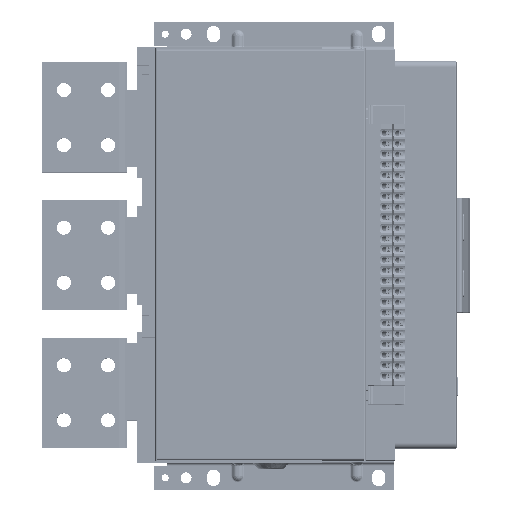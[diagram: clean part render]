
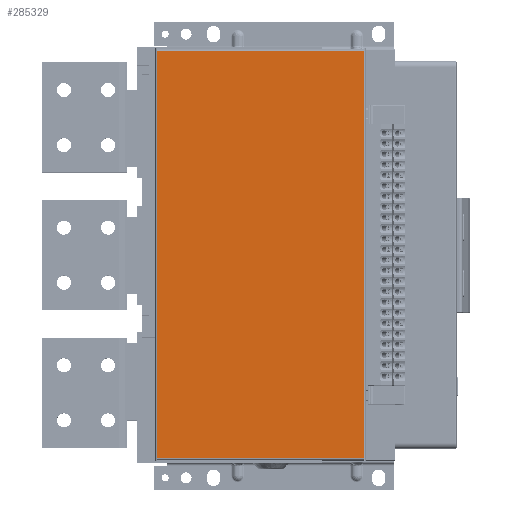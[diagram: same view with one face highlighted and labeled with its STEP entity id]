
A CAD part, top view. The second image highlights one B-rep face of the part: STEP entity #285329.
In plain terms, the highlighted planar face has unit normal (0, 0, 1).
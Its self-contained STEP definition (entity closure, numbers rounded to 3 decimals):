
#24631 = ORIENTED_EDGE ( 'NONE', *, *, #78099, .F. ) ;
#33591 = LINE ( 'NONE', #299027, #73189 ) ;
#39309 = VECTOR ( 'NONE', #195420, 1000. ) ;
#55974 = EDGE_LOOP ( 'NONE', ( #230789, #188426, #298214, #239392, #115432, #79682, #24631, #367428 ) ) ;
#56262 = CARTESIAN_POINT ( 'NONE',  ( -93.998, 184.998, 1.5 ) ) ;
#57906 = VECTOR ( 'NONE', #276073, 1000. ) ;
#60544 = CARTESIAN_POINT ( 'NONE',  ( 93.998, -184.998, 1.5 ) ) ;
#61466 = VERTEX_POINT ( 'NONE', #244719 ) ;
#66921 = CARTESIAN_POINT ( 'NONE',  ( -93.998, -184.998, 1.5 ) ) ;
#73189 = VECTOR ( 'NONE', #154335, 1000. ) ;
#73366 = VERTEX_POINT ( 'NONE', #66921 ) ;
#78099 = EDGE_CURVE ( 'NONE', #128645, #301815, #33591, .T. ) ;
#79682 = ORIENTED_EDGE ( 'NONE', *, *, #362203, .F. ) ;
#80392 = VERTEX_POINT ( 'NONE', #249979 ) ;
#103866 = LINE ( 'NONE', #262209, #148655 ) ;
#104046 = DIRECTION ( 'NONE',  ( 1., 0., 0. ) ) ;
#111314 = VECTOR ( 'NONE', #265684, 1000. ) ;
#112266 = CARTESIAN_POINT ( 'NONE',  ( 93.998, 184.998, 1.5 ) ) ;
#115432 = ORIENTED_EDGE ( 'NONE', *, *, #367665, .F. ) ;
#123774 = LINE ( 'NONE', #60544, #230177 ) ;
#125532 = LINE ( 'NONE', #281958, #57906 ) ;
#128645 = VERTEX_POINT ( 'NONE', #384091 ) ;
#137264 = EDGE_CURVE ( 'NONE', #73366, #369457, #125532, .T. ) ;
#148655 = VECTOR ( 'NONE', #256357, 1000. ) ;
#153506 = DIRECTION ( 'NONE',  ( -1., 0., 0. ) ) ;
#154335 = DIRECTION ( 'NONE',  ( 1., 0., 0. ) ) ;
#164911 = LINE ( 'NONE', #384143, #364417 ) ;
#168706 = CARTESIAN_POINT ( 'NONE',  ( 93.996, -184.998, 1.5 ) ) ;
#188426 = ORIENTED_EDGE ( 'NONE', *, *, #137264, .F. ) ;
#195420 = DIRECTION ( 'NONE',  ( -1., 0., 0. ) ) ;
#214687 = CARTESIAN_POINT ( 'NONE',  ( -93.996, -184.998, 1.5 ) ) ;
#230177 = VECTOR ( 'NONE', #153506, 1000. ) ;
#230789 = ORIENTED_EDGE ( 'NONE', *, *, #290110, .F. ) ;
#232942 = LINE ( 'NONE', #353731, #39309 ) ;
#235767 = CARTESIAN_POINT ( 'NONE',  ( -93.998, 184.998, 1.5 ) ) ;
#239392 = ORIENTED_EDGE ( 'NONE', *, *, #327683, .T. ) ;
#244719 = CARTESIAN_POINT ( 'NONE',  ( -93.996, 184.998, 1.5 ) ) ;
#249979 = CARTESIAN_POINT ( 'NONE',  ( 93.998, -184.998, 1.5 ) ) ;
#256357 = DIRECTION ( 'NONE',  ( 1., 0., 0. ) ) ;
#258483 = PLANE ( 'NONE',  #363997 ) ;
#259598 = LINE ( 'NONE', #235767, #302850 ) ;
#259821 = LINE ( 'NONE', #321250, #111314 ) ;
#262209 = CARTESIAN_POINT ( 'NONE',  ( -93.996, -184.998, 1.5 ) ) ;
#264365 = DIRECTION ( 'NONE',  ( 0., 0., 1. ) ) ;
#265684 = DIRECTION ( 'NONE',  ( 0., -1., 0. ) ) ;
#276073 = DIRECTION ( 'NONE',  ( 0., 1., 0. ) ) ;
#281492 = EDGE_CURVE ( 'NONE', #128645, #61466, #232942, .T. ) ;
#281958 = CARTESIAN_POINT ( 'NONE',  ( -93.998, -187.5, 1.5 ) ) ;
#285329 = ADVANCED_FACE ( 'NONE', ( #377361 ), #258483, .T. ) ;
#290110 = EDGE_CURVE ( 'NONE', #369457, #61466, #259598, .T. ) ;
#298214 = ORIENTED_EDGE ( 'NONE', *, *, #303270, .F. ) ;
#299027 = CARTESIAN_POINT ( 'NONE',  ( -93.998, 184.998, 1.5 ) ) ;
#301815 = VERTEX_POINT ( 'NONE', #112266 ) ;
#302850 = VECTOR ( 'NONE', #352682, 1000. ) ;
#303270 = EDGE_CURVE ( 'NONE', #310847, #73366, #164911, .T. ) ;
#310847 = VERTEX_POINT ( 'NONE', #214687 ) ;
#319904 = CARTESIAN_POINT ( 'NONE',  ( 0., 0., 1.5 ) ) ;
#321250 = CARTESIAN_POINT ( 'NONE',  ( 93.998, 187.5, 1.5 ) ) ;
#327683 = EDGE_CURVE ( 'NONE', #310847, #344659, #103866, .T. ) ;
#344659 = VERTEX_POINT ( 'NONE', #168706 ) ;
#347085 = DIRECTION ( 'NONE',  ( -1., 0., 0. ) ) ;
#352682 = DIRECTION ( 'NONE',  ( 1., 0., 0. ) ) ;
#353731 = CARTESIAN_POINT ( 'NONE',  ( 93.996, 184.998, 1.5 ) ) ;
#362203 = EDGE_CURVE ( 'NONE', #301815, #80392, #259821, .T. ) ;
#363997 = AXIS2_PLACEMENT_3D ( 'NONE', #319904, #264365, #104046 ) ;
#364417 = VECTOR ( 'NONE', #347085, 1000. ) ;
#367428 = ORIENTED_EDGE ( 'NONE', *, *, #281492, .T. ) ;
#367665 = EDGE_CURVE ( 'NONE', #80392, #344659, #123774, .T. ) ;
#369457 = VERTEX_POINT ( 'NONE', #56262 ) ;
#377361 = FACE_OUTER_BOUND ( 'NONE', #55974, .T. ) ;
#384091 = CARTESIAN_POINT ( 'NONE',  ( 93.996, 184.998, 1.5 ) ) ;
#384143 = CARTESIAN_POINT ( 'NONE',  ( 93.998, -184.998, 1.5 ) ) ;
